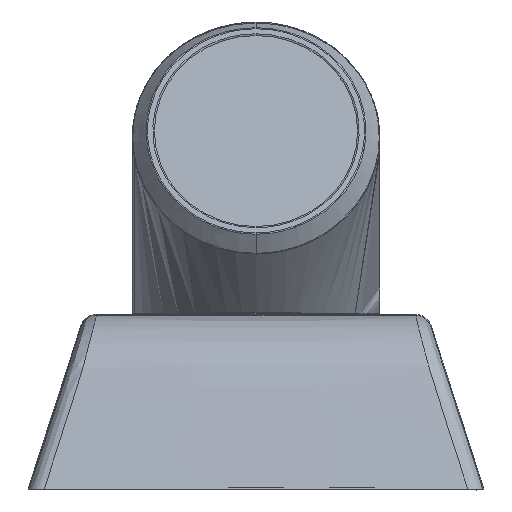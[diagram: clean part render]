
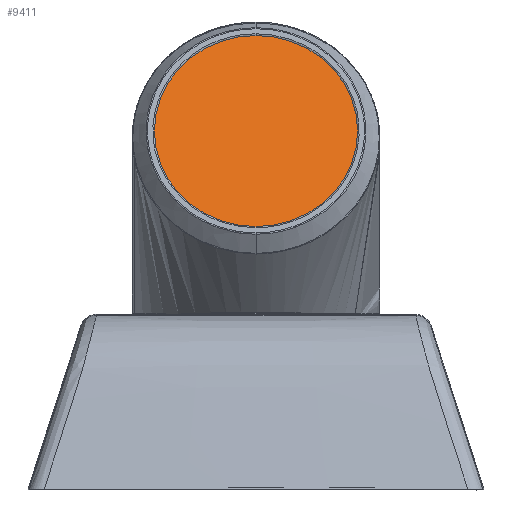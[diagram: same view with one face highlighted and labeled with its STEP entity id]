
A CAD part, front view. The second image highlights one B-rep face of the part: STEP entity #9411.
In plain terms, the highlighted planar face has unit normal (0, -0.94, 0.342).
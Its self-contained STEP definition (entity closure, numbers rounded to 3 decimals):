
#174 = DIRECTION ( 'NONE',  ( 0., 0.342, 0.94 ) ) ;
#468 = DIRECTION ( 'NONE',  ( 0., 0.342, 0.94 ) ) ;
#594 = PLANE ( 'NONE',  #2607 ) ;
#639 = CARTESIAN_POINT ( 'NONE',  ( 0., 1002.493, 141.143 ) ) ;
#672 = CARTESIAN_POINT ( 'NONE',  ( 0., 992.164, 112.765 ) ) ;
#817 = AXIS2_PLACEMENT_3D ( 'NONE', #639, #3442, #2921 ) ;
#1250 = DIRECTION ( 'NONE',  ( 0., 0.94, -0.342 ) ) ;
#1472 = FACE_OUTER_BOUND ( 'NONE', #11581, .T. ) ;
#2352 = CARTESIAN_POINT ( 'NONE',  ( 0., 1002.493, 141.143 ) ) ;
#2493 = EDGE_CURVE ( 'NONE', #11829, #11844, #3950, .T. ) ;
#2607 = AXIS2_PLACEMENT_3D ( 'NONE', #2352, #8955, #468 ) ;
#2921 = DIRECTION ( 'NONE',  ( 0., 0.342, 0.94 ) ) ;
#3348 = CARTESIAN_POINT ( 'NONE',  ( 0., 1012.822, 169.522 ) ) ;
#3410 = CIRCLE ( 'NONE', #817, 30.2 ) ;
#3442 = DIRECTION ( 'NONE',  ( 0., 0.94, -0.342 ) ) ;
#3950 = CIRCLE ( 'NONE', #5542, 30.2 ) ;
#5542 = AXIS2_PLACEMENT_3D ( 'NONE', #7000, #1250, #174 ) ;
#7000 = CARTESIAN_POINT ( 'NONE',  ( 0., 1002.493, 141.143 ) ) ;
#8511 = ORIENTED_EDGE ( 'NONE', *, *, #12131, .F. ) ;
#8955 = DIRECTION ( 'NONE',  ( 0., 0.94, -0.342 ) ) ;
#9411 = ADVANCED_FACE ( 'NONE', ( #1472 ), #594, .F. ) ;
#10333 = ORIENTED_EDGE ( 'NONE', *, *, #2493, .F. ) ;
#11581 = EDGE_LOOP ( 'NONE', ( #8511, #10333 ) ) ;
#11829 = VERTEX_POINT ( 'NONE', #3348 ) ;
#11844 = VERTEX_POINT ( 'NONE', #672 ) ;
#12131 = EDGE_CURVE ( 'NONE', #11844, #11829, #3410, .T. ) ;
